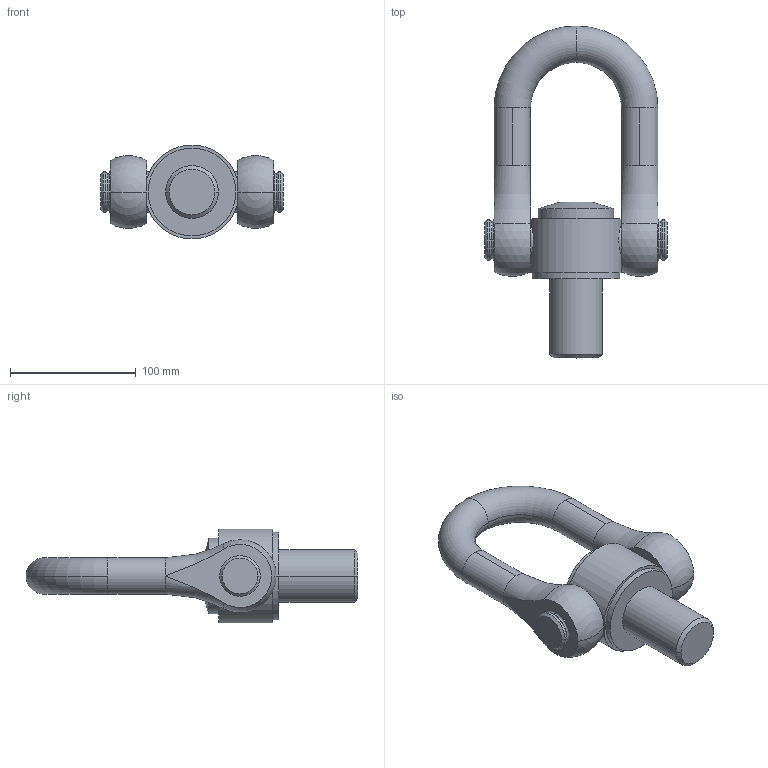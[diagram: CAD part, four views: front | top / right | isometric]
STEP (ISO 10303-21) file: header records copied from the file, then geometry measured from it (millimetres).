
FILE_DESCRIPTION( ( '' ), '1' );
FILE_NAME( 'c:/Temp/codipro/codipro_ss.dss_m42_90', '2011-05-12T08:16:00', ( '' ), ( '' ), ' ', ' ', ' ' );
FILE_SCHEMA( ( 'automotive_design' ) );
Length unit declared in the file: millimetre
Products named in the file (2): 1; 2
Bounding box: 145.5 x 264.5 x 74.72 mm (x, y, z)
Volume: 694950.5 mm3; surface area: 87321.1 mm2
Topology: 2 solids, 2 shells, 74 faces, 186 edges, 116 vertices
Faces by surface type: cylinder 24, plane 22, torus 16, cone 8, sphere 4
Entity records: 4545 total; most frequent: CARTESIAN_POINT 578, DIRECTION 432, STYLED_ITEM 374, PRESENTATION_STYLE_ASSIGNMENT 374, COLOUR_RGB 374, ORIENTED_EDGE 364, AXIS2_PLACEMENT_3D 186, EDGE_CURVE 182
